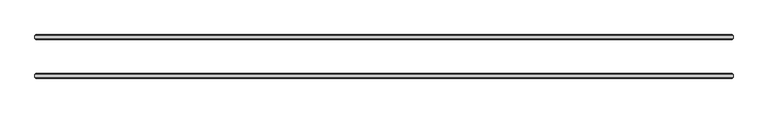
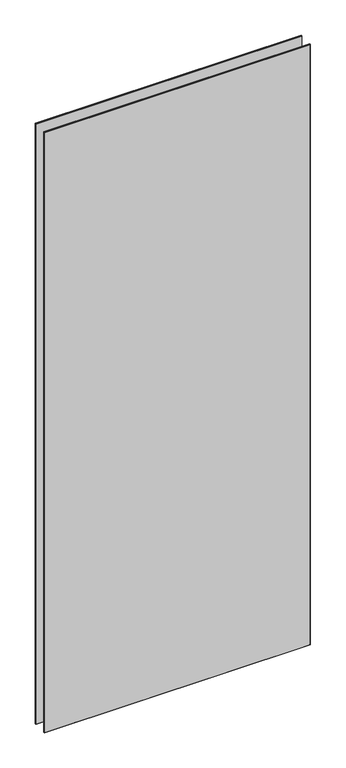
"""IFC4 building model written with IfcOpenShell, lengths in millimetres: plate geometry, 3-AMG-2-Панель двойной витраж 8, 10 : Смещение 32 Толщина 8mm."""

from ifc_helpers import new_model, si_unit, origin, place, context, project, spatial, faceted_brep, source, transform, mapped, element, save


def plate_3e321998(model_context):
    return source(origin(), model_context, "Body", "Brep", [
        faceted_brep([(567.1, -34.4961653, 2722.8), (567.1, -29.5038347, 2722.8), (-577.1, -29.5038347, 2722.8), (-577.1, -34.4961653, 2722.8), (567.1, -29.5038347, -7.0), (567.1, -34.4961653, -7.0), (-577.1, -34.4961653, -7.0), (-577.1, -29.5038347, -7.0), (-575.5961653, -28.0, 2721.2961653), (565.5961653, -28.0, 2721.2961653), (565.5961653, -28.0, -5.5039422), (-575.5961653, -28.0, -5.5039422), (565.5961653, -36.0, 2721.2961653), (-575.5961653, -36.0, 2721.2961653), (-575.5961653, -36.0, -5.4961653), (565.5961653, -36.0, -5.4961653)], [[[0, 1, 2, 3]], [[4, 5, 6, 7]], [[8, 9, 10, 11]], [[3, 2, 7, 6]], [[12, 13, 14, 15]], [[1, 0, 5, 4]], [[1, 4, 10, 9]], [[5, 0, 12, 15]], [[0, 3, 13, 12]], [[2, 1, 9, 8]], [[7, 2, 8, 11]], [[3, 6, 14, 13]], [[6, 5, 15, 14]], [[4, 7, 11, 10]]]),
        faceted_brep([(567.1, 29.5038347, 2722.8), (567.1, 34.4961653, 2722.8), (-577.1, 34.4961653, 2722.8), (-577.1, 29.5038347, 2722.8), (567.1, 34.4961653, -7.0), (567.1, 29.5038347, -7.0), (-577.1, 29.5038347, -7.0), (-577.1, 34.4961653, -7.0), (-575.5961653, 36.0, 2721.2961653), (565.5961653, 36.0, 2721.2961653), (565.5961653, 36.0, -5.5039422), (-575.5961653, 36.0, -5.5039422), (565.5961653, 28.0, 2721.2961653), (-575.5961653, 28.0, 2721.2961653), (-575.5961653, 28.0, -5.4961653), (565.5961653, 28.0, -5.4961653)], [[[0, 1, 2, 3]], [[4, 5, 6, 7]], [[8, 9, 10, 11]], [[3, 2, 7, 6]], [[12, 13, 14, 15]], [[1, 0, 5, 4]], [[1, 4, 10, 9]], [[5, 0, 12, 15]], [[7, 2, 8, 11]], [[3, 6, 14, 13]], [[0, 3, 13, 12]], [[2, 1, 9, 8]], [[6, 5, 15, 14]], [[4, 7, 11, 10]]]),
    ])


if __name__ == "__main__":
    model = new_model("IFC4")
    model_context = context("Model", 3, world=origin())
    ifc_project = project(units=[si_unit("LENGTHUNIT", "METRE", prefix="MILLI")], contexts=[model_context])
    site = spatial("IfcSite", under=ifc_project)
    building = spatial("IfcBuilding", under=site)
    placement = place(None, origin())
    plate_shape = plate_3e321998(model_context)
    element("IfcPlate", 1, ObjectType="3-AMG-2-Панель двойной витраж 8, 10 : Смещение 32 Толщина 8mm", at=placement, inside=building, context=model_context, shape_type="MappedRepresentation", body=[
        mapped(plate_shape, transform((0.0, 0.0, 0.0), x_axis=(1.0, 0.0, 0.0), y_axis=(0.0, 1.0, 0.0), z_axis=(0.0, 0.0, 1.0))),
    ])
    save(model, "model.ifc")
